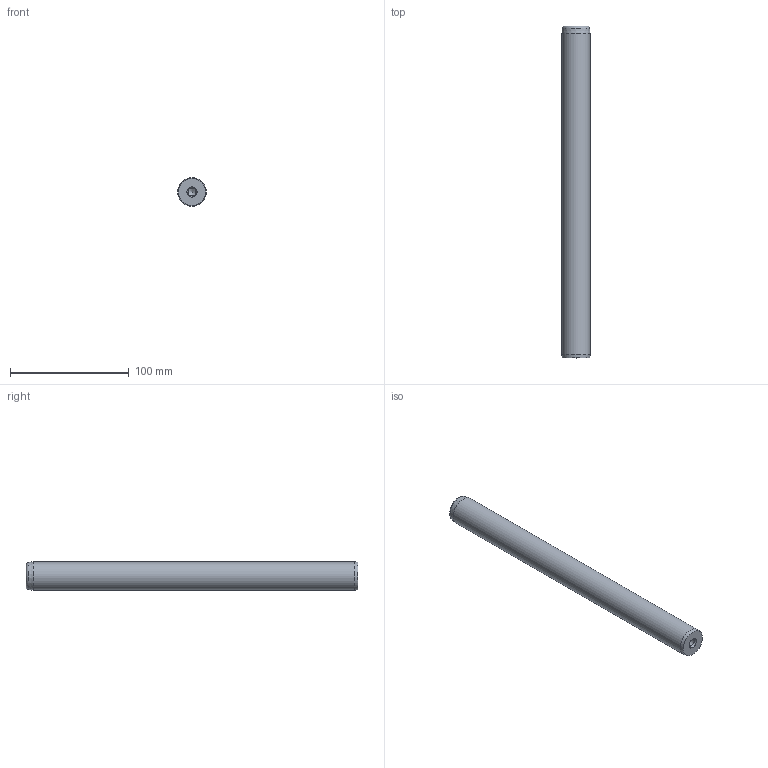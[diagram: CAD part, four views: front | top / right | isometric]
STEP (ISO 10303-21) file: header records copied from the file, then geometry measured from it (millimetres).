
FILE_DESCRIPTION( ( 'STEP AP203' ), '1' );
FILE_NAME( 'D:/Cuma/D14/D14_24280.step', '2003-01-18T23:30:50', ( ' ' ), ( ' ' ), 'XStep 1.0', ' ', ' ' );
FILE_SCHEMA( ( 'CONFIG_CONTROL_DESIGN' ) );
Length unit declared in the file: metre
Products named in the file (1): 1
Bounding box: 24 x 280 x 24 mm (x, y, z)
Volume: 124428.2 mm3; surface area: 22965.4 mm2
Topology: 1 solids, 1 shells, 14 faces, 29 edges, 17 vertices
Faces by surface type: cone 6, cylinder 5, plane 2, torus 1
Full cylindrical faces by diameter (mm): 6.75 x4, 24 x1
Entity records: 327 total; most frequent: DIRECTION 56, CARTESIAN_POINT 43, AXIS2_PLACEMENT_3D 28, EDGE_LOOP 26, ORIENTED_EDGE 26, FACE_OUTER_BOUND 20, VERTEX_POINT 15, ADVANCED_FACE 14
